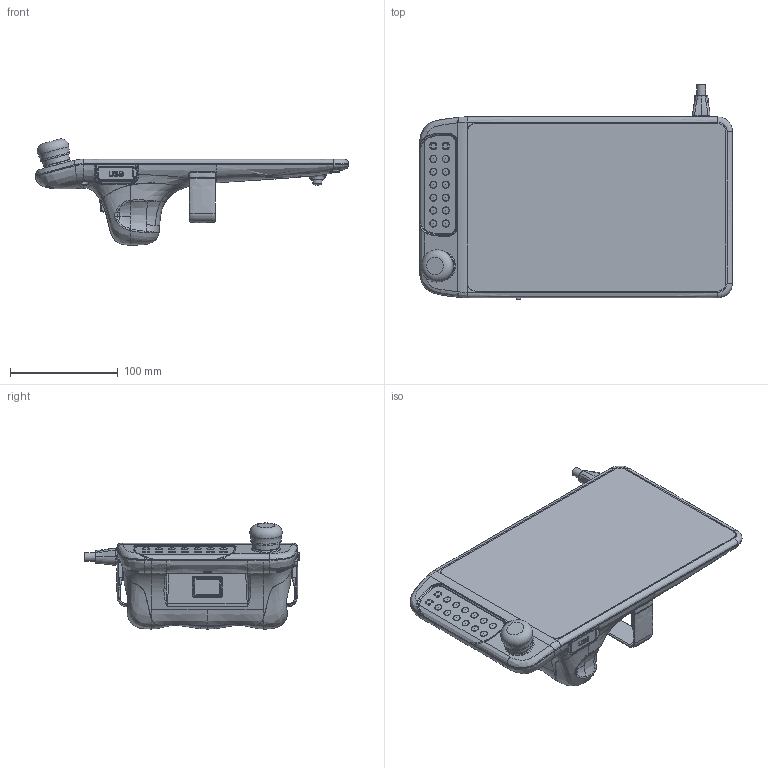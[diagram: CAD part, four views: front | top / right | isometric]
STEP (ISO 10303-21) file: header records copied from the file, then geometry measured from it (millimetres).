
FILE_DESCRIPTION(/* description */ (''),/* implementation_level */ '2;1');
FILE_NAME(/* name */ '【】LS34-xPad2 简化模型 20221208.stp',/* time_stamp */ '2022-12-08T13:59:56+08:00',/* author */ (''),/* organization */ (''),/* preprocessor_version */ 'ST-DEVELOPER v16',/* originating_system */ 'SIEMENS PLM Software NX 10.0',/* authorisation */ '');
FILE_SCHEMA (('AUTOMOTIVE_DESIGN { 1 0 10303 214 3 1 1 1 }'));
Products named in the file (1): Thin0E54FF02k5vj
Bounding box: 290.8 x 199.5 x 98.65 mm (x, y, z)
Volume: 1422490.8 mm3; surface area: 142524.3 mm2
Topology: 1 solids, 17 shells, 1346 faces, 3496 edges, 2217 vertices
Faces by surface type: plane 570, bspline 366, cylinder 223, torus 81, extrusion 50, cone 29, sphere 18, revolution 9
Full cylindrical faces by diameter (mm): 8 x1, 25 x1, 28 x1
Entity records: 79009 total; most frequent: CARTESIAN_POINT 50037, ORIENTED_EDGE 6842, DIRECTION 4519, EDGE_CURVE 3421, VERTEX_POINT 2185, AXIS2_PLACEMENT_3D 1535, EDGE_LOOP 1448, VECTOR 1440
